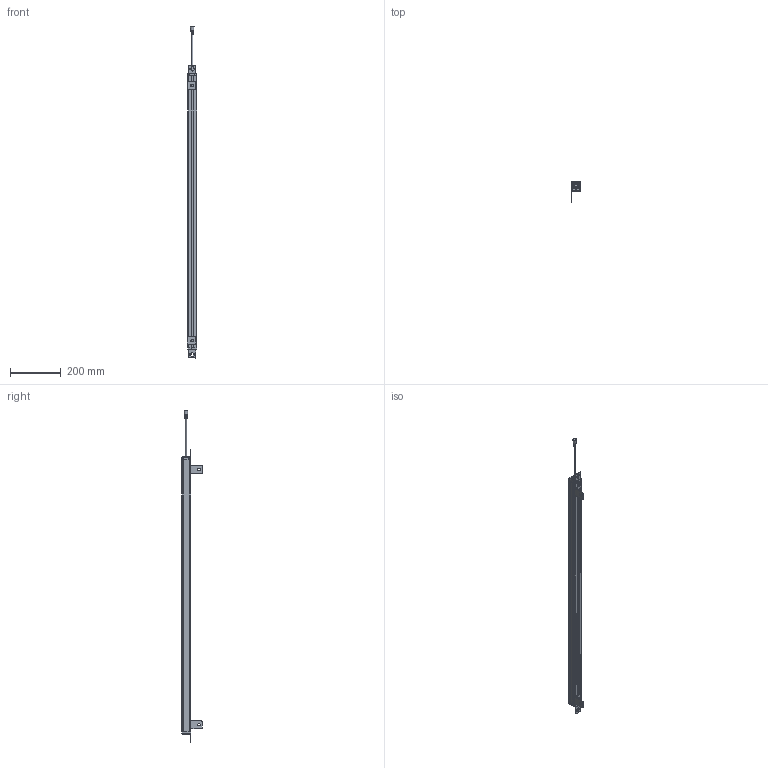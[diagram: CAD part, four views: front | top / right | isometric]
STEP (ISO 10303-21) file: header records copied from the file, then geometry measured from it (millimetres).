
FILE_DESCRIPTION(/* description */ (''),/* implementation_level */ '2;1');
FILE_NAME(/* name */ 'MTD2640.stp',/* time_stamp */ '2023-12-04T16:34:32+08:00',/* author */ (''),/* organization */ (''),/* preprocessor_version */ 'ST-DEVELOPER v16.7',/* originating_system */ 'SIEMENS PLM Software NX 12.0',/* authorisation */ '');
FILE_SCHEMA (('AP203_CONFIGURATION_CONTROLLED_3D_DESIGN_OF_MECHANICAL_PARTS_AND_ASSEMBLIES_MIM_LF { 1 0 10303 403 2 1 2}'));
Length unit declared in the file: millimetre
Products named in the file (1): 1040（35X35__stp
Bounding box: 37 x 80.6 x 1302.01 mm (x, y, z)
Volume: 529772.1 mm3; surface area: 398988.1 mm2
Topology: 10 solids, 10 shells, 563 faces, 1626 edges, 1096 vertices
Faces by surface type: plane 325, cylinder 202, cone 36
Full cylindrical faces by diameter (mm): 4.4 x1, 9 x1, 12.5 x1
Entity records: 18948 total; most frequent: CARTESIAN_POINT 3351, DIRECTION 3263, ORIENTED_EDGE 3230, EDGE_CURVE 1615, VERTEX_POINT 1092, AXIS2_PLACEMENT_3D 1088, LINE 1087, VECTOR 1087
